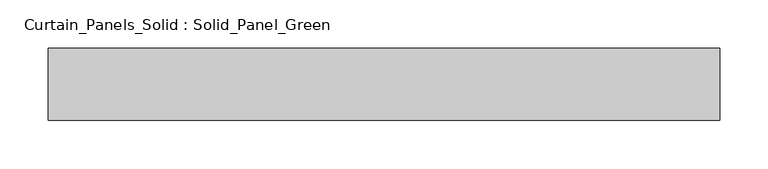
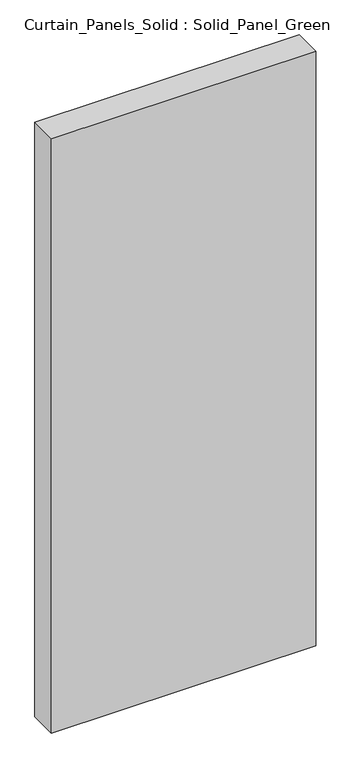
"""IFC4 building model written with IfcOpenShell, lengths in millimetres: plate geometry, Curtain_Panels_Solid : Solid_Panel_Green."""

from ifc_helpers import new_model, si_unit, origin, origin_with_axes, place, context, project, spatial, polyline, outline, extrude, source, transform, mapped, element, save


def curtain_panels_solid_solid_panel_green_5b8b56fd(model_context):
    return source(origin(), model_context, "Body", "SweptSolid", [
        extrude(outline(polyline([(348.7500001, 25.0), (348.7500001, -50.0), (-348.7500001, -50.0), (-348.7500001, 25.0), (348.7500001, 25.0)])), origin_with_axes(), (0.0, 0.0, 1.0), 1657.5),
    ])


if __name__ == "__main__":
    model = new_model("IFC4")
    model_context = context("Model", 3, world=origin())
    ifc_project = project(units=[si_unit("LENGTHUNIT", "METRE", prefix="MILLI")], contexts=[model_context])
    site = spatial("IfcSite", under=ifc_project)
    building = spatial("IfcBuilding", under=site)
    placement = place(None, origin())
    curtain_panels_solid_solid_panel_green_shape = curtain_panels_solid_solid_panel_green_5b8b56fd(model_context)
    element("IfcPlate", 1, ObjectType="Curtain_Panels_Solid : Solid_Panel_Green", at=placement, inside=building, context=model_context, shape_type="MappedRepresentation", body=[
        mapped(curtain_panels_solid_solid_panel_green_shape, transform((0.0, 0.0, 0.0), x_axis=(1.0, 0.0, 0.0), y_axis=(0.0, 1.0, 0.0), z_axis=(0.0, 0.0, 1.0))),
    ])
    save(model, "model.ifc")
